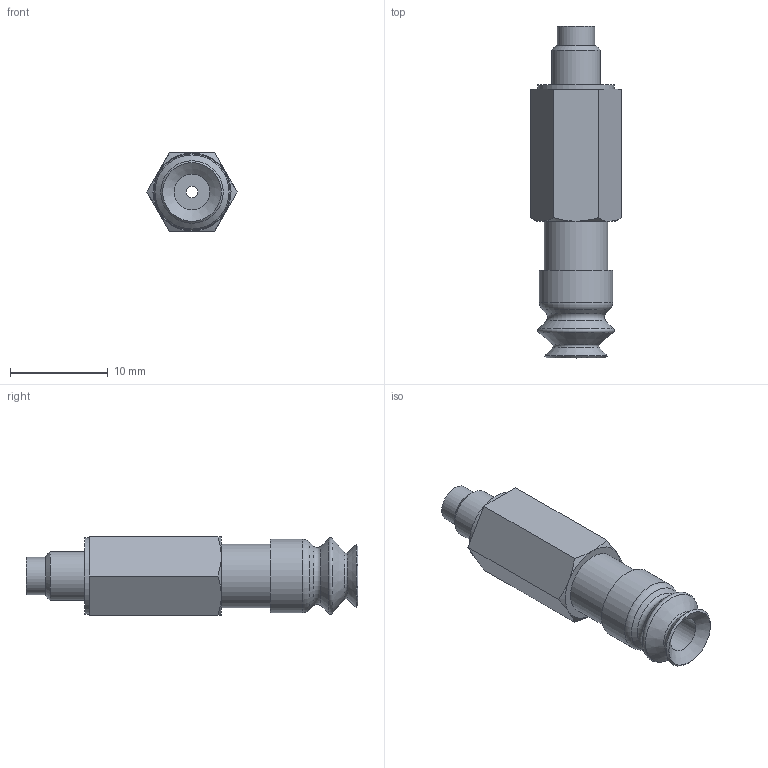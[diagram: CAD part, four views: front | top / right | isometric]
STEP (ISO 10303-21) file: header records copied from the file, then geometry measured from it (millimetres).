
FILE_DESCRIPTION(('STEP AP203'),'1');
FILE_NAME('.stp','2025-04-23T04:44:47',(' '),(' '),'Spatial InterOp 3D',' ',' ');
FILE_SCHEMA(('CONFIG_CONTROL_DESIGN'));
Length unit declared in the file: millimetre
Products named in the file (4): BPSS-L5-BPJG-6-※; PSS-7-L5-M; PSS-7-L5-F; BPJG-6-※
Assembly tree (3 placements, depth 2):
  BPSS-L5-BPJG-6-※
    PSS-7-L5-M
    PSS-7-L5-F
    BPJG-6-※
Bounding box: 9.24 x 34 x 8 mm (x, y, z)
Volume: 1175.2 mm3; surface area: 1807.9 mm2
Topology: 3 solids, 3 shells, 57 faces, 114 edges, 71 vertices
Faces by surface type: plane 20, cylinder 15, cone 14, torus 8
Full cylindrical faces by diameter (mm): 1.2 x1, 2.4 x2, 3.4 x1, 3.64 x1, 3.8 x1, 4 x2, 5 x1, 6 x2, 6.5 x2, 7.5 x1, 7.8 x1
Entity records: 1454 total; most frequent: DIRECTION 234, CARTESIAN_POINT 221, ORIENTED_EDGE 148, AXIS2_PLACEMENT_3D 111, EDGE_LOOP 102, FACE_OUTER_BOUND 80, EDGE_CURVE 74, VERTEX_POINT 62
